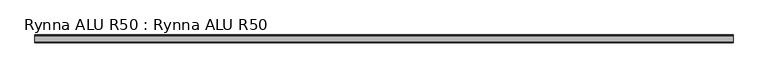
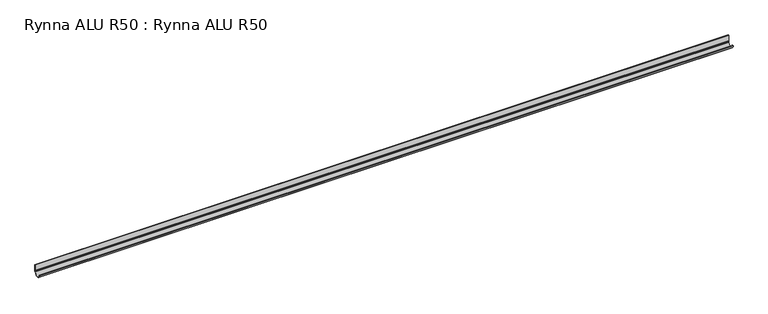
"""IFC4 building model written with IfcOpenShell, lengths in millimetres: proxy geometry, Rynna ALU R50 : Rynna ALU R50."""

from ifc_helpers import new_model, si_unit, point, frame, frame_2d, origin, place, context, project, spatial, polyline, circle_curve, trimmed, segment, composite_curve, outline, extrude, source, transform, mapped, element, save


def rynna_alu_r50_rynna_alu_r50_54312427(model_context):
    return source(origin(), model_context, "Body", "SweptSolid", [
        extrude(outline(composite_curve([segment(polyline([(0.6978396, 0.0), (0.6978396, -39.5252625), (-1.8149767, -41.8701356), (-2.328284, -45.5225054), (0.9565767, -44.1281649), (0.1767814, -46.0765907), (-2.6292486, -47.6619658)]), True, "CONTINUOUS"), segment(trimmed(circle_curve(frame_2d((-27.3646611, -44.302303)), 24.9625312), [point((-2.6292486, -47.6619658))], [point((-52.3271923, -44.302303))], False, "CARTESIAN"), True, "CONTINUOUS"), segment(trimmed(circle_curve(frame_2d((-50.3771937, -44.3000011)), 1.95), [point((-52.3271923, -44.302303))], [point((-50.8512717, -46.1914952))], False, "CARTESIAN"), True, "CONTINUOUS"), segment(trimmed(circle_curve(frame_2d((-27.3646611, -44.302303)), 23.5624686), [point((-50.8512717, -46.1914952))], [point((-3.9370468, -46.8196069))], True, "CARTESIAN"), True, "CONTINUOUS"), segment(polyline([(-3.9370468, -46.8196069), (-3.0707013, -41.065916), (-0.7021617, -38.7702547), (-0.7021617, 0.0), (0.6978396, 0.0)]), True, "CONTINUOUS")], self_intersect=False)), frame((-2300.000005, 0.0, 0.0), z_axis=(1.0, 0.0, 0.0), x_axis=(0.0, 1.0, 0.0)), (0.0, 0.0, 1.0), 4600.00001),
    ])


if __name__ == "__main__":
    model = new_model("IFC4")
    model_context = context("Model", 3, world=origin())
    ifc_project = project(units=[si_unit("LENGTHUNIT", "METRE", prefix="MILLI")], contexts=[model_context])
    site = spatial("IfcSite", under=ifc_project)
    building = spatial("IfcBuilding", under=site)
    placement = place(None, origin())
    rynna_alu_r50_rynna_alu_r50_shape = rynna_alu_r50_rynna_alu_r50_54312427(model_context)
    element("IfcBuildingElementProxy", 1, Name="Rynna ALU R50 : Rynna ALU R50", ObjectType="Rynna ALU R50 : Rynna ALU R50", at=placement, inside=building, context=model_context, shape_type="MappedRepresentation", body=[
        mapped(rynna_alu_r50_rynna_alu_r50_shape, transform((0.0, 0.0, 0.0), x_axis=(1.0, 0.0, 0.0), y_axis=(0.0, 1.0, 0.0), z_axis=(0.0, 0.0, 1.0))),
    ])
    save(model, "model.ifc")
